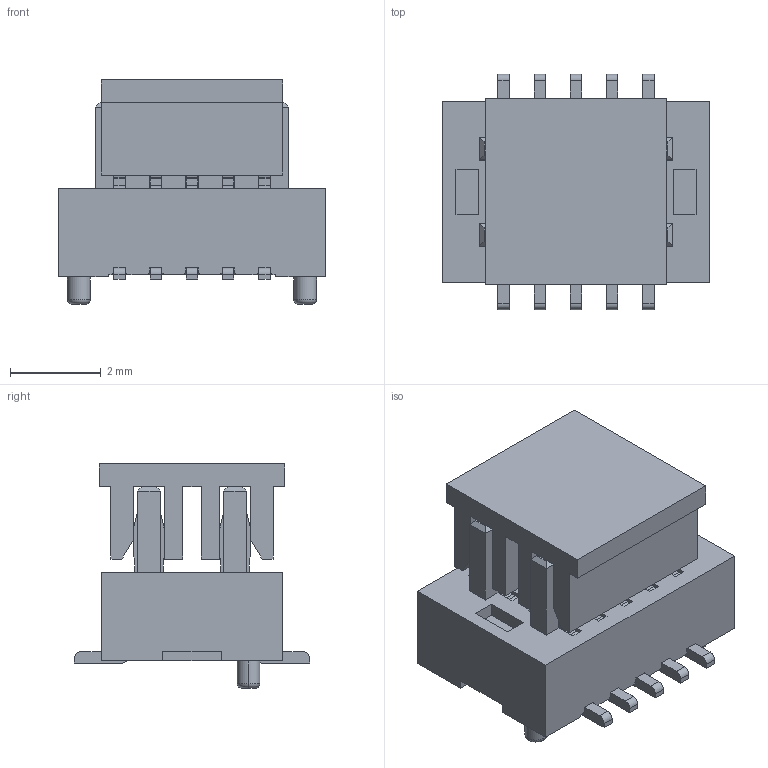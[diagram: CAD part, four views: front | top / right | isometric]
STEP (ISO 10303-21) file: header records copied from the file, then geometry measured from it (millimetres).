
FILE_DESCRIPTION (( 'STEP AP203' ), '1' );
FILE_NAME ('HC-PBB08-2-10-M-H2.0-G1-R-P-04(BTB0.8 双槽 公座 立贴 带柱 编带+盖)-HCTL.STEP', '2025-12-11T01:11:57', ( '' ), ( '' ), 'SwSTEP 2.0', 'SolidWorks 2025', '' );
FILE_SCHEMA (( 'CONFIG_CONTROL_DESIGN' ));
Length unit declared in the file: millimetre
Products named in the file (1): HC-PBB08-2-10-M-H2.0-G1-R-P-04(BTB0.8 双槽 公座 立贴 带柱 编带+盖)-HCTL
Bounding box: 5.9 x 5.2 x 4.95 mm (x, y, z)
Volume: 72.1 mm3; surface area: 370.6 mm2
Topology: 2 solids, 2 shells, 650 faces, 2038 edges, 1328 vertices
Faces by surface type: plane 442, cylinder 204, torus 4
Entity records: 22697 total; most frequent: CARTESIAN_POINT 4137, ORIENTED_EDGE 4076, DIRECTION 3716, EDGE_CURVE 2038, VECTOR 1582, LINE 1582, VERTEX_POINT 1328, AXIS2_PLACEMENT_3D 1067
